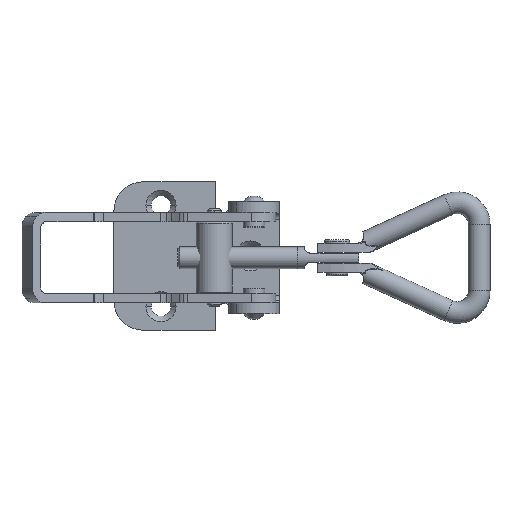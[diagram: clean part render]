
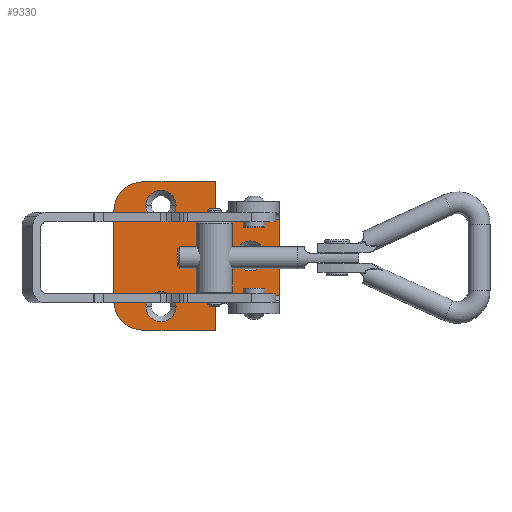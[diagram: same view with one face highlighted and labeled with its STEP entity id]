
A CAD part, top view. The second image highlights one B-rep face of the part: STEP entity #9330.
In plain terms, the highlighted planar face has unit normal (0, 0, 1).
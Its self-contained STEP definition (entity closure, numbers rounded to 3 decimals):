
#8598=CARTESIAN_POINT('',(-20.657,18.157,1.5));
#8599=VERTEX_POINT('',#8598);
#8615=CARTESIAN_POINT('',(-23.0,12.5,1.5));
#8616=VERTEX_POINT('',#8615);
#8623=CARTESIAN_POINT('',(-15.0,12.5,1.5));
#8624=DIRECTION('',(0.0,0.0,-1.));
#8625=DIRECTION('',(-0.707,0.707,0.0));
#8626=AXIS2_PLACEMENT_3D('',#8623,#8624,#8625);
#8627=CIRCLE('',#8626,8.);
#8628=EDGE_CURVE('',#8616,#8599,#8627,.T.);
#8640=CARTESIAN_POINT('',(-20.657,-18.157,1.5));
#8641=VERTEX_POINT('',#8640);
#8657=CARTESIAN_POINT('',(-15.0,-20.5,1.5));
#8658=VERTEX_POINT('',#8657);
#8665=CARTESIAN_POINT('',(-15.0,-12.5,1.5));
#8666=DIRECTION('',(0.0,0.0,-1.));
#8667=DIRECTION('',(-0.707,-0.707,0.0));
#8668=AXIS2_PLACEMENT_3D('',#8665,#8666,#8667);
#8669=CIRCLE('',#8668,8.);
#8670=EDGE_CURVE('',#8658,#8641,#8669,.T.);
#8974=CARTESIAN_POINT('',(-14.15,14.0,1.5));
#8975=VERTEX_POINT('',#8974);
#8989=CARTESIAN_POINT('',(-5.85,14.0,1.5));
#8990=VERTEX_POINT('',#8989);
#8997=CARTESIAN_POINT('',(-10.0,14.0,1.5));
#8998=DIRECTION('',(0.0,0.0,1.0));
#8999=DIRECTION('',(-1.0,0.0,0.0));
#9000=AXIS2_PLACEMENT_3D('',#8997,#8998,#8999);
#9001=CIRCLE('',#9000,4.15);
#9002=EDGE_CURVE('',#8990,#8975,#9001,.T.);
#9054=CARTESIAN_POINT('',(10.582,0.,1.5));
#9055=VERTEX_POINT('',#9054);
#9069=CARTESIAN_POINT('',(18.882,0.,1.5));
#9070=VERTEX_POINT('',#9069);
#9077=CARTESIAN_POINT('',(14.732,0.,1.5));
#9078=DIRECTION('',(0.0,0.0,1.0));
#9079=DIRECTION('',(-1.0,0.0,0.0));
#9080=AXIS2_PLACEMENT_3D('',#9077,#9078,#9079);
#9081=CIRCLE('',#9080,4.15);
#9082=EDGE_CURVE('',#9070,#9055,#9081,.T.);
#9134=CARTESIAN_POINT('',(-14.15,-14.0,1.5));
#9135=VERTEX_POINT('',#9134);
#9149=CARTESIAN_POINT('',(-5.85,-14.0,1.5));
#9150=VERTEX_POINT('',#9149);
#9157=CARTESIAN_POINT('',(-10.0,-14.0,1.5));
#9158=DIRECTION('',(0.0,0.0,1.0));
#9159=DIRECTION('',(-1.0,0.0,0.0));
#9160=AXIS2_PLACEMENT_3D('',#9157,#9158,#9159);
#9161=CIRCLE('',#9160,4.15);
#9162=EDGE_CURVE('',#9150,#9135,#9161,.T.);
#9173=CARTESIAN_POINT('',(-10.0,-14.0,1.5));
#9174=DIRECTION('',(0.0,0.0,1.0));
#9175=DIRECTION('',(-1.0,0.0,0.0));
#9176=AXIS2_PLACEMENT_3D('',#9173,#9174,#9175);
#9177=CIRCLE('',#9176,4.15);
#9178=EDGE_CURVE('',#9135,#9150,#9177,.T.);
#9185=CARTESIAN_POINT('',(-0.743,-0.122,1.5));
#9186=DIRECTION('',(0.0,0.0,1.0));
#9187=DIRECTION('',(1.0,0.0,0.0));
#9188=AXIS2_PLACEMENT_3D('',#9185,#9186,#9187);
#9189=PLANE('',#9188);
#9190=CARTESIAN_POINT('',(22.732,-11.0,1.5));
#9191=VERTEX_POINT('',#9190);
#9192=CARTESIAN_POINT('',(8.732,-11.0,1.5));
#9193=VERTEX_POINT('',#9192);
#9194=CARTESIAN_POINT('',(22.732,-11.0,1.5));
#9195=DIRECTION('',(-1.0,0.0,0.0));
#9196=VECTOR('',#9195,14.);
#9197=LINE('',#9194,#9196);
#9198=EDGE_CURVE('',#9191,#9193,#9197,.T.);
#9199=ORIENTED_EDGE('',*,*,#9198,.F.);
#9200=CARTESIAN_POINT('',(22.732,10.0,1.5));
#9201=VERTEX_POINT('',#9200);
#9202=CARTESIAN_POINT('',(22.732,10.0,1.5));
#9203=DIRECTION('',(0.0,-1.0,0.0));
#9204=VECTOR('',#9203,21.0);
#9205=LINE('',#9202,#9204);
#9206=EDGE_CURVE('',#9201,#9191,#9205,.T.);
#9207=ORIENTED_EDGE('',*,*,#9206,.F.);
#9208=CARTESIAN_POINT('',(8.732,10.0,1.5));
#9209=VERTEX_POINT('',#9208);
#9210=CARTESIAN_POINT('',(8.732,10.0,1.5));
#9211=DIRECTION('',(1.0,0.0,0.0));
#9212=VECTOR('',#9211,14.);
#9213=LINE('',#9210,#9212);
#9214=EDGE_CURVE('',#9209,#9201,#9213,.T.);
#9215=ORIENTED_EDGE('',*,*,#9214,.F.);
#9216=CARTESIAN_POINT('',(8.732,13.,1.5));
#9217=VERTEX_POINT('',#9216);
#9218=CARTESIAN_POINT('',(8.732,10.0,1.5));
#9219=DIRECTION('',(0.0,1.0,0.0));
#9220=VECTOR('',#9219,3.);
#9221=LINE('',#9218,#9220);
#9222=EDGE_CURVE('',#9209,#9217,#9221,.T.);
#9223=ORIENTED_EDGE('',*,*,#9222,.T.);
#9224=CARTESIAN_POINT('',(5.0,14.,1.5));
#9225=VERTEX_POINT('',#9224);
#9226=CARTESIAN_POINT('',(7.0,14.,1.5));
#9227=DIRECTION('',(0.0,0.0,1.0));
#9228=DIRECTION('',(1.0,0.0,0.0));
#9229=AXIS2_PLACEMENT_3D('',#9226,#9227,#9228);
#9230=CIRCLE('',#9229,2.0);
#9231=EDGE_CURVE('',#9225,#9217,#9230,.T.);
#9232=ORIENTED_EDGE('',*,*,#9231,.F.);
#9233=CARTESIAN_POINT('',(5.0,20.5,1.5));
#9234=VERTEX_POINT('',#9233);
#9235=CARTESIAN_POINT('',(5.0,20.5,1.5));
#9236=DIRECTION('',(0.0,-1.0,0.0));
#9237=VECTOR('',#9236,6.5);
#9238=LINE('',#9235,#9237);
#9239=EDGE_CURVE('',#9234,#9225,#9238,.T.);
#9240=ORIENTED_EDGE('',*,*,#9239,.F.);
#9241=CARTESIAN_POINT('',(-15.,20.5,1.5));
#9242=VERTEX_POINT('',#9241);
#9243=CARTESIAN_POINT('',(-15.,20.5,1.5));
#9244=DIRECTION('',(1.0,0.0,0.0));
#9245=VECTOR('',#9244,20.0);
#9246=LINE('',#9243,#9245);
#9247=EDGE_CURVE('',#9242,#9234,#9246,.T.);
#9248=ORIENTED_EDGE('',*,*,#9247,.F.);
#9249=CARTESIAN_POINT('',(-15.0,12.5,1.5));
#9250=DIRECTION('',(0.0,0.0,-1.));
#9251=DIRECTION('',(-0.707,0.707,0.0));
#9252=AXIS2_PLACEMENT_3D('',#9249,#9250,#9251);
#9253=CIRCLE('',#9252,8.);
#9254=EDGE_CURVE('',#8599,#9242,#9253,.T.);
#9255=ORIENTED_EDGE('',*,*,#9254,.F.);
#9256=ORIENTED_EDGE('',*,*,#8628,.F.);
#9257=CARTESIAN_POINT('',(-23.0,-12.5,1.5));
#9258=VERTEX_POINT('',#9257);
#9259=CARTESIAN_POINT('',(-23.0,-12.5,1.5));
#9260=DIRECTION('',(0.0,1.0,0.0));
#9261=VECTOR('',#9260,25.0);
#9262=LINE('',#9259,#9261);
#9263=EDGE_CURVE('',#9258,#8616,#9262,.T.);
#9264=ORIENTED_EDGE('',*,*,#9263,.F.);
#9265=CARTESIAN_POINT('',(-15.0,-12.5,1.5));
#9266=DIRECTION('',(0.0,0.0,-1.));
#9267=DIRECTION('',(-0.707,-0.707,0.0));
#9268=AXIS2_PLACEMENT_3D('',#9265,#9266,#9267);
#9269=CIRCLE('',#9268,8.);
#9270=EDGE_CURVE('',#8641,#9258,#9269,.T.);
#9271=ORIENTED_EDGE('',*,*,#9270,.F.);
#9272=ORIENTED_EDGE('',*,*,#8670,.F.);
#9273=CARTESIAN_POINT('',(5.0,-20.5,1.5));
#9274=VERTEX_POINT('',#9273);
#9275=CARTESIAN_POINT('',(5.0,-20.5,1.5));
#9276=DIRECTION('',(-1.0,0.0,0.0));
#9277=VECTOR('',#9276,20.0);
#9278=LINE('',#9275,#9277);
#9279=EDGE_CURVE('',#9274,#8658,#9278,.T.);
#9280=ORIENTED_EDGE('',*,*,#9279,.F.);
#9281=CARTESIAN_POINT('',(5.0,-15.0,1.5));
#9282=VERTEX_POINT('',#9281);
#9283=CARTESIAN_POINT('',(5.0,-15.0,1.5));
#9284=DIRECTION('',(0.0,-1.0,0.0));
#9285=VECTOR('',#9284,5.5);
#9286=LINE('',#9283,#9285);
#9287=EDGE_CURVE('',#9282,#9274,#9286,.T.);
#9288=ORIENTED_EDGE('',*,*,#9287,.F.);
#9289=CARTESIAN_POINT('',(8.732,-14.,1.5));
#9290=VERTEX_POINT('',#9289);
#9291=CARTESIAN_POINT('',(7.0,-15.0,1.5));
#9292=DIRECTION('',(0.0,0.0,1.0));
#9293=DIRECTION('',(1.0,0.0,0.0));
#9294=AXIS2_PLACEMENT_3D('',#9291,#9292,#9293);
#9295=CIRCLE('',#9294,2.0);
#9296=EDGE_CURVE('',#9290,#9282,#9295,.T.);
#9297=ORIENTED_EDGE('',*,*,#9296,.F.);
#9298=CARTESIAN_POINT('',(8.732,-14.,1.5));
#9299=DIRECTION('',(0.0,1.0,0.0));
#9300=VECTOR('',#9299,3.);
#9301=LINE('',#9298,#9300);
#9302=EDGE_CURVE('',#9290,#9193,#9301,.T.);
#9303=ORIENTED_EDGE('',*,*,#9302,.T.);
#9304=EDGE_LOOP('',(#9199,#9207,#9215,#9223,#9232,#9240,#9248,#9255,#9256,#9264,#9271,#9272,#9280,#9288,#9297,#9303));
#9305=FACE_OUTER_BOUND('',#9304,.T.);
#9306=ORIENTED_EDGE('',*,*,#9082,.F.);
#9307=CARTESIAN_POINT('',(14.732,0.,1.5));
#9308=DIRECTION('',(0.0,0.0,1.0));
#9309=DIRECTION('',(-1.0,0.0,0.0));
#9310=AXIS2_PLACEMENT_3D('',#9307,#9308,#9309);
#9311=CIRCLE('',#9310,4.15);
#9312=EDGE_CURVE('',#9055,#9070,#9311,.T.);
#9313=ORIENTED_EDGE('',*,*,#9312,.F.);
#9314=EDGE_LOOP('',(#9306,#9313));
#9315=FACE_BOUND('',#9314,.T.);
#9316=ORIENTED_EDGE('',*,*,#9002,.F.);
#9317=CARTESIAN_POINT('',(-10.0,14.0,1.5));
#9318=DIRECTION('',(0.0,0.0,1.0));
#9319=DIRECTION('',(-1.0,0.0,0.0));
#9320=AXIS2_PLACEMENT_3D('',#9317,#9318,#9319);
#9321=CIRCLE('',#9320,4.15);
#9322=EDGE_CURVE('',#8975,#8990,#9321,.T.);
#9323=ORIENTED_EDGE('',*,*,#9322,.F.);
#9324=EDGE_LOOP('',(#9316,#9323));
#9325=FACE_BOUND('',#9324,.T.);
#9326=ORIENTED_EDGE('',*,*,#9162,.F.);
#9327=ORIENTED_EDGE('',*,*,#9178,.F.);
#9328=EDGE_LOOP('',(#9326,#9327));
#9329=FACE_BOUND('',#9328,.T.);
#9330=ADVANCED_FACE('',(#9305,#9315,#9325,#9329),#9189,.T.);
